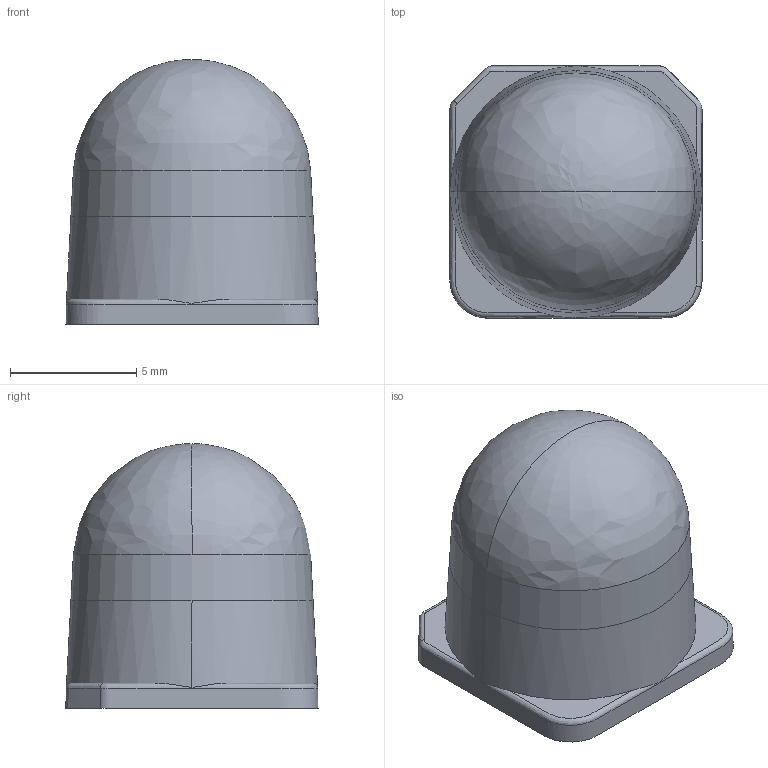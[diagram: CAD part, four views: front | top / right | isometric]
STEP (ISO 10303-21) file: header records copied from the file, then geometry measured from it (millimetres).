
FILE_DESCRIPTION(/* description */ (''),/* implementation_level */ '2;1');
FILE_NAME(/* name */ '260227_お客様開示用AL-10M-275_製品モデル',/* time_stamp */ '2026-02-27T11:42:07+09:00',/* author */ (''),/* organization */ (''),/* preprocessor_version */ 'ST-DEVELOPER v19.2',/* originating_system */ 'Rhino 8.21',/* authorisation */ '');
FILE_SCHEMA (('AP242_MANAGED_MODEL_BASED_3D_ENGINEERING_MIM_LF { 1 0 10303 442 3 1 4 }'));
Length unit declared in the file: millimetre
Products named in the file (1): Document
Bounding box: 10 x 10 x 10.5 mm (x, y, z)
Volume: 659.1 mm3; surface area: 446.3 mm2
Topology: 1 solids, 1 shells, 20 faces, 49 edges, 30 vertices
Faces by surface type: bspline 14, plane 6
Entity records: 2199 total; most frequent: CARTESIAN_POINT 1847, ORIENTED_EDGE 94, EDGE_CURVE 47, DIRECTION 38, VERTEX_POINT 30, AXIS2_PLACEMENT_3D 22, EDGE_LOOP 21, ADVANCED_FACE 20
